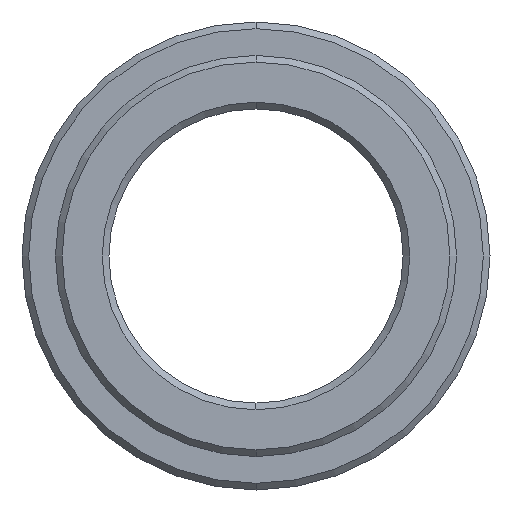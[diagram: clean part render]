
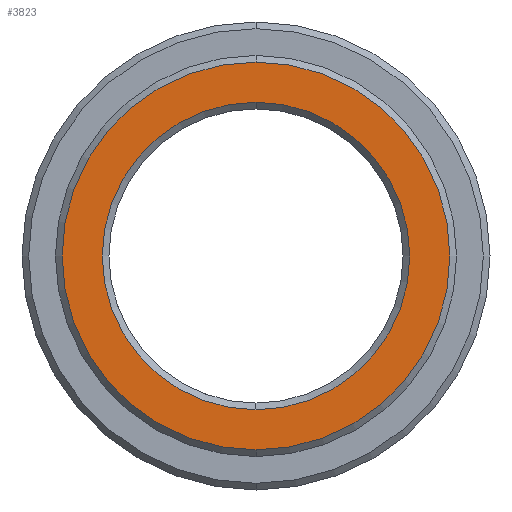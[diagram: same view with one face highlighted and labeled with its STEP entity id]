
A CAD part, left-side view. The second image highlights one B-rep face of the part: STEP entity #3823.
In plain terms, the highlighted planar face has unit normal (-1, 0, 0).
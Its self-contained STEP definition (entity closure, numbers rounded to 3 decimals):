
#2386=CARTESIAN_POINT('',(-8.,0.,
0.));
#2387=DIRECTION('',(1.,0.,0.));
#2388=DIRECTION('',(0.,0.,-1.));
#2389=AXIS2_PLACEMENT_3D('',#2386,#2387,#2388);
#2391=CARTESIAN_POINT('',(-8.,0.,
0.));
#2392=DIRECTION('',(1.,0.,0.));
#2393=DIRECTION('',(0.,0.,1.));
#2394=AXIS2_PLACEMENT_3D('',#2391,#2392,#2393);
#2396=CARTESIAN_POINT('',(-8.,0.,
0.));
#2397=DIRECTION('',(1.,0.,0.));
#2398=DIRECTION('',(0.,0.,1.));
#2399=AXIS2_PLACEMENT_3D('',#2396,#2397,#2398);
#2401=CARTESIAN_POINT('',(-8.,0.,
0.));
#2402=DIRECTION('',(1.,0.,0.));
#2403=DIRECTION('',(0.,0.,-1.));
#2404=AXIS2_PLACEMENT_3D('',#2401,#2402,#2403);
#2586=CARTESIAN_POINT('',(-8.,0.,11.5));
#2587=CARTESIAN_POINT('',(-8.,0.,-11.5));
#2588=VERTEX_POINT('',#2586);
#2589=VERTEX_POINT('',#2587);
#2594=CARTESIAN_POINT('',(-8.,0.,-14.5));
#2595=CARTESIAN_POINT('',(-8.,0.,14.5));
#2596=VERTEX_POINT('',#2594);
#2597=VERTEX_POINT('',#2595);
#3808=CARTESIAN_POINT('',(-8.,0.,0.));
#3809=DIRECTION('',(1.,0.,0.));
#3810=DIRECTION('',(0.,0.,1.));
#3811=AXIS2_PLACEMENT_3D('',#3808,#3809,#3810);
#3812=PLANE('',#3811);
#3813=ORIENTED_EDGE('',*,*,#3790,.T.);
#3814=ORIENTED_EDGE('',*,*,#3775,.T.);
#3815=EDGE_LOOP('',(#3813,#3814));
#3816=FACE_OUTER_BOUND('',#3815,.F.);
#3818=ORIENTED_EDGE('',*,*,#3817,.F.);
#3820=ORIENTED_EDGE('',*,*,#3819,.F.);
#3821=EDGE_LOOP('',(#3818,#3820));
#3822=FACE_BOUND('',#3821,.F.);
#3823=ADVANCED_FACE('',(#3816,#3822),#3812,.F.);
#2390=CIRCLE('',#2389,14.5);
#2395=CIRCLE('',#2394,14.5);
#2400=CIRCLE('',#2399,11.5);
#2405=CIRCLE('',#2404,11.5);
#3775=EDGE_CURVE('',#2597,#2596,#2395,.T.);
#3790=EDGE_CURVE('',#2596,#2597,#2390,.T.);
#3817=EDGE_CURVE('',#2588,#2589,#2400,.T.);
#3819=EDGE_CURVE('',#2589,#2588,#2405,.T.);
